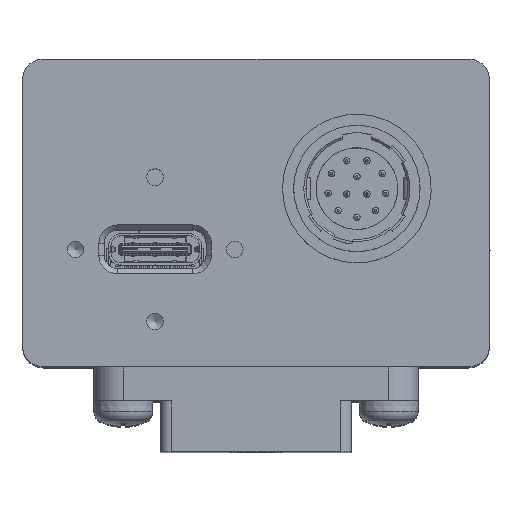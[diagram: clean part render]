
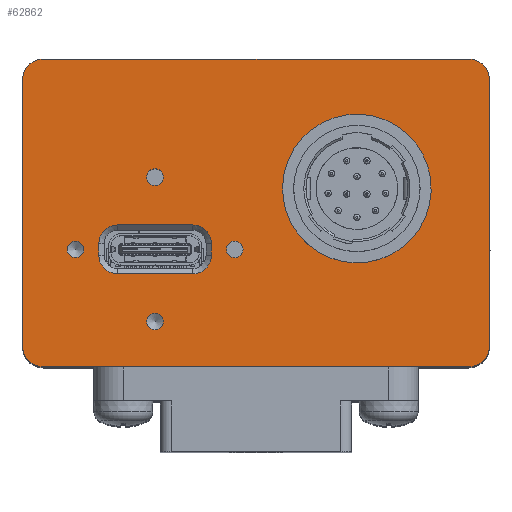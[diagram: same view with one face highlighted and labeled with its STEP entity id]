
A CAD part, top view. The second image highlights one B-rep face of the part: STEP entity #62862.
In plain terms, the highlighted planar face has unit normal (0, 0, 1).
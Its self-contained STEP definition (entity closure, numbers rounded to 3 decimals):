
#1283=LINE('',#91901,#8253);
#1287=LINE('',#91910,#8257);
#1290=LINE('',#91918,#8260);
#1292=LINE('',#91926,#8262);
#1296=LINE('',#91937,#8266);
#1297=LINE('',#91941,#8267);
#1298=LINE('',#91945,#8268);
#1299=LINE('',#91948,#8269);
#8253=VECTOR('',#73988,10.);
#8257=VECTOR('',#73998,10.);
#8260=VECTOR('',#74007,10.);
#8262=VECTOR('',#74017,10.);
#8266=VECTOR('',#74029,10.);
#8267=VECTOR('',#74032,10.);
#8268=VECTOR('',#74035,10.);
#8269=VECTOR('',#74038,10.);
#15008=PLANE('',#66809);
#17098=FACE_BOUND('',#21385,.T.);
#17099=FACE_BOUND('',#21386,.T.);
#17100=FACE_BOUND('',#21387,.T.);
#17101=FACE_BOUND('',#21388,.T.);
#17102=FACE_BOUND('',#21389,.T.);
#17103=FACE_BOUND('',#21390,.T.);
#18004=FACE_OUTER_BOUND('',#21384,.T.);
#21384=EDGE_LOOP('',(#43782,#43783,#43784,#43785,#43786,#43787,#43788,#43789));
#21385=EDGE_LOOP('',(#43790));
#21386=EDGE_LOOP('',(#43791));
#21387=EDGE_LOOP('',(#43792));
#21388=EDGE_LOOP('',(#43793));
#21389=EDGE_LOOP('',(#43794));
#21390=EDGE_LOOP('',(#43795,#43796,#43797,#43798,#43799,#43800,#43801,#43802));
#24470=CIRCLE('',#66347,7.);
#24595=CIRCLE('',#66718,0.784);
#24597=CIRCLE('',#66722,0.784);
#24633=CIRCLE('',#66794,1.75);
#24635=CIRCLE('',#66798,1.75);
#24636=CIRCLE('',#66801,1.75);
#24637=CIRCLE('',#66804,1.75);
#24639=CIRCLE('',#66810,2.);
#24640=CIRCLE('',#66811,2.);
#24641=CIRCLE('',#66812,2.);
#24642=CIRCLE('',#66813,2.);
#24643=CIRCLE('',#66814,0.784);
#24644=CIRCLE('',#66815,0.784);
#26437=VERTEX_POINT('',#90154);
#26818=VERTEX_POINT('',#91718);
#26820=VERTEX_POINT('',#91724);
#26877=VERTEX_POINT('',#91891);
#26878=VERTEX_POINT('',#91893);
#26880=VERTEX_POINT('',#91899);
#26881=VERTEX_POINT('',#91904);
#26882=VERTEX_POINT('',#91908);
#26883=VERTEX_POINT('',#91912);
#26884=VERTEX_POINT('',#91916);
#26886=VERTEX_POINT('',#91921);
#26887=VERTEX_POINT('',#91933);
#26888=VERTEX_POINT('',#91934);
#26889=VERTEX_POINT('',#91936);
#26890=VERTEX_POINT('',#91938);
#26891=VERTEX_POINT('',#91940);
#26892=VERTEX_POINT('',#91942);
#26893=VERTEX_POINT('',#91944);
#26894=VERTEX_POINT('',#91946);
#26895=VERTEX_POINT('',#91949);
#26896=VERTEX_POINT('',#91951);
#32493=EDGE_CURVE('',#26437,#26437,#24470,.T.);
#33111=EDGE_CURVE('',#26818,#26818,#24595,.T.);
#33113=EDGE_CURVE('',#26820,#26820,#24597,.T.);
#33188=EDGE_CURVE('',#26877,#26878,#24633,.T.);
#33192=EDGE_CURVE('',#26880,#26877,#1283,.T.);
#33195=EDGE_CURVE('',#26881,#26880,#24635,.T.);
#33197=EDGE_CURVE('',#26882,#26881,#1287,.T.);
#33199=EDGE_CURVE('',#26883,#26882,#24636,.T.);
#33201=EDGE_CURVE('',#26884,#26883,#1290,.T.);
#33203=EDGE_CURVE('',#26886,#26884,#24637,.T.);
#33205=EDGE_CURVE('',#26878,#26886,#1292,.T.);
#33209=EDGE_CURVE('',#26887,#26888,#24639,.T.);
#33210=EDGE_CURVE('',#26887,#26889,#1296,.T.);
#33211=EDGE_CURVE('',#26890,#26889,#24640,.T.);
#33212=EDGE_CURVE('',#26890,#26891,#1297,.T.);
#33213=EDGE_CURVE('',#26892,#26891,#24641,.T.);
#33214=EDGE_CURVE('',#26892,#26893,#1298,.T.);
#33215=EDGE_CURVE('',#26894,#26893,#24642,.T.);
#33216=EDGE_CURVE('',#26894,#26888,#1299,.T.);
#33217=EDGE_CURVE('',#26895,#26895,#24643,.T.);
#33218=EDGE_CURVE('',#26896,#26896,#24644,.T.);
#43782=ORIENTED_EDGE('',*,*,#33209,.F.);
#43783=ORIENTED_EDGE('',*,*,#33210,.T.);
#43784=ORIENTED_EDGE('',*,*,#33211,.F.);
#43785=ORIENTED_EDGE('',*,*,#33212,.T.);
#43786=ORIENTED_EDGE('',*,*,#33213,.F.);
#43787=ORIENTED_EDGE('',*,*,#33214,.T.);
#43788=ORIENTED_EDGE('',*,*,#33215,.F.);
#43789=ORIENTED_EDGE('',*,*,#33216,.T.);
#43790=ORIENTED_EDGE('',*,*,#32493,.T.);
#43791=ORIENTED_EDGE('',*,*,#33111,.T.);
#43792=ORIENTED_EDGE('',*,*,#33113,.T.);
#43793=ORIENTED_EDGE('',*,*,#33217,.T.);
#43794=ORIENTED_EDGE('',*,*,#33218,.T.);
#43795=ORIENTED_EDGE('',*,*,#33188,.F.);
#43796=ORIENTED_EDGE('',*,*,#33192,.F.);
#43797=ORIENTED_EDGE('',*,*,#33195,.F.);
#43798=ORIENTED_EDGE('',*,*,#33197,.F.);
#43799=ORIENTED_EDGE('',*,*,#33199,.F.);
#43800=ORIENTED_EDGE('',*,*,#33201,.F.);
#43801=ORIENTED_EDGE('',*,*,#33203,.F.);
#43802=ORIENTED_EDGE('',*,*,#33205,.F.);
#62862=ADVANCED_FACE('',(#18004,#17098,#17099,#17100,#17101,#17102,#17103),
#15008,.T.);
#66347=AXIS2_PLACEMENT_3D('',#90155,#72572,#72573);
#66718=AXIS2_PLACEMENT_3D('',#91719,#73789,#73790);
#66722=AXIS2_PLACEMENT_3D('',#91725,#73797,#73798);
#66794=AXIS2_PLACEMENT_3D('',#91894,#73980,#73981);
#66798=AXIS2_PLACEMENT_3D('',#91906,#73993,#73994);
#66801=AXIS2_PLACEMENT_3D('',#91914,#74002,#74003);
#66804=AXIS2_PLACEMENT_3D('',#91923,#74011,#74012);
#66809=AXIS2_PLACEMENT_3D('',#91932,#74025,#74026);
#66810=AXIS2_PLACEMENT_3D('',#91935,#74027,#74028);
#66811=AXIS2_PLACEMENT_3D('',#91939,#74030,#74031);
#66812=AXIS2_PLACEMENT_3D('',#91943,#74033,#74034);
#66813=AXIS2_PLACEMENT_3D('',#91947,#74036,#74037);
#66814=AXIS2_PLACEMENT_3D('',#91950,#74039,#74040);
#66815=AXIS2_PLACEMENT_3D('',#91952,#74041,#74042);
#72572=DIRECTION('center_axis',(0.,0.,-1.));
#72573=DIRECTION('ref_axis',(1.,0.,0.));
#73789=DIRECTION('center_axis',(0.,0.,-1.));
#73790=DIRECTION('ref_axis',(1.,0.,0.));
#73797=DIRECTION('center_axis',(0.,0.,-1.));
#73798=DIRECTION('ref_axis',(1.,0.,0.));
#73980=DIRECTION('center_axis',(0.,0.,1.));
#73981=DIRECTION('ref_axis',(0.,1.,0.));
#73988=DIRECTION('',(-1.,0.,0.));
#73993=DIRECTION('center_axis',(0.,0.,1.));
#73994=DIRECTION('ref_axis',(1.,0.,0.));
#73998=DIRECTION('',(0.,1.,0.));
#74002=DIRECTION('center_axis',(0.,0.,1.));
#74003=DIRECTION('ref_axis',(0.,-1.,0.));
#74007=DIRECTION('',(1.,0.,0.));
#74011=DIRECTION('center_axis',(0.,0.,1.));
#74012=DIRECTION('ref_axis',(-1.,0.,0.));
#74017=DIRECTION('',(0.,-1.,0.));
#74025=DIRECTION('center_axis',(0.,0.,1.));
#74026=DIRECTION('ref_axis',(1.,0.,0.));
#74027=DIRECTION('center_axis',(0.,0.,-1.));
#74028=DIRECTION('ref_axis',(-0.707,0.707,0.));
#74029=DIRECTION('',(0.,-1.,0.));
#74030=DIRECTION('center_axis',(0.,0.,-1.));
#74031=DIRECTION('ref_axis',(-0.707,-0.707,0.));
#74032=DIRECTION('',(1.,0.,0.));
#74033=DIRECTION('center_axis',(0.,0.,-1.));
#74034=DIRECTION('ref_axis',(0.707,-0.707,0.));
#74035=DIRECTION('',(0.,1.,0.));
#74036=DIRECTION('center_axis',(0.,0.,-1.));
#74037=DIRECTION('ref_axis',(0.707,0.707,0.));
#74038=DIRECTION('',(-1.,0.,0.));
#74039=DIRECTION('center_axis',(0.,0.,-1.));
#74040=DIRECTION('ref_axis',(1.,0.,0.));
#74041=DIRECTION('center_axis',(0.,0.,-1.));
#74042=DIRECTION('ref_axis',(1.,0.,0.));
#90154=CARTESIAN_POINT('',(14.203,7.485,60.));
#90155=CARTESIAN_POINT('Origin',(9.5,2.3,60.));
#91718=CARTESIAN_POINT('',(-8.717,3.37,60.));
#91719=CARTESIAN_POINT('Origin',(-9.5,3.37,60.));
#91724=CARTESIAN_POINT('',(-8.717,-10.23,60.));
#91725=CARTESIAN_POINT('Origin',(-9.5,-10.23,60.));
#91891=CARTESIAN_POINT('',(-13.05,-1.13,60.));
#91893=CARTESIAN_POINT('',(-14.8,-2.88,60.));
#91894=CARTESIAN_POINT('Origin',(-13.05,-2.88,60.));
#91899=CARTESIAN_POINT('',(-5.95,-1.13,60.));
#91901=CARTESIAN_POINT('',(-6.525,-1.13,60.));
#91904=CARTESIAN_POINT('',(-4.2,-2.88,60.));
#91906=CARTESIAN_POINT('Origin',(-5.95,-2.88,60.));
#91908=CARTESIAN_POINT('',(-4.2,-3.98,60.));
#91910=CARTESIAN_POINT('',(-4.2,-1.44,60.));
#91912=CARTESIAN_POINT('',(-5.95,-5.73,60.));
#91914=CARTESIAN_POINT('Origin',(-5.95,-3.98,60.));
#91916=CARTESIAN_POINT('',(-13.05,-5.73,60.));
#91918=CARTESIAN_POINT('',(-2.975,-5.73,60.));
#91921=CARTESIAN_POINT('',(-14.8,-3.98,60.));
#91923=CARTESIAN_POINT('Origin',(-13.05,-3.98,60.));
#91926=CARTESIAN_POINT('',(-14.8,-1.99,60.));
#91932=CARTESIAN_POINT('Origin',(0.,0.,
60.));
#91933=CARTESIAN_POINT('',(-22.,12.5,60.));
#91934=CARTESIAN_POINT('',(-20.,14.5,60.));
#91935=CARTESIAN_POINT('Origin',(-20.,12.5,60.));
#91936=CARTESIAN_POINT('',(-22.,-12.5,60.));
#91937=CARTESIAN_POINT('',(-22.,-14.5,60.));
#91938=CARTESIAN_POINT('',(-20.,-14.5,60.));
#91939=CARTESIAN_POINT('Origin',(-20.,-12.5,60.));
#91940=CARTESIAN_POINT('',(20.,-14.5,60.));
#91941=CARTESIAN_POINT('',(22.,-14.5,60.));
#91942=CARTESIAN_POINT('',(22.,-12.5,60.));
#91943=CARTESIAN_POINT('Origin',(20.,-12.5,60.));
#91944=CARTESIAN_POINT('',(22.,12.5,60.));
#91945=CARTESIAN_POINT('',(22.,14.5,60.));
#91946=CARTESIAN_POINT('',(20.,14.5,60.));
#91947=CARTESIAN_POINT('Origin',(20.,12.5,60.));
#91948=CARTESIAN_POINT('',(-22.,14.5,60.));
#91949=CARTESIAN_POINT('',(-1.217,-3.43,60.));
#91950=CARTESIAN_POINT('Origin',(-2.,-3.43,60.));
#91951=CARTESIAN_POINT('',(-16.217,-3.43,60.));
#91952=CARTESIAN_POINT('Origin',(-17.,-3.43,60.));
